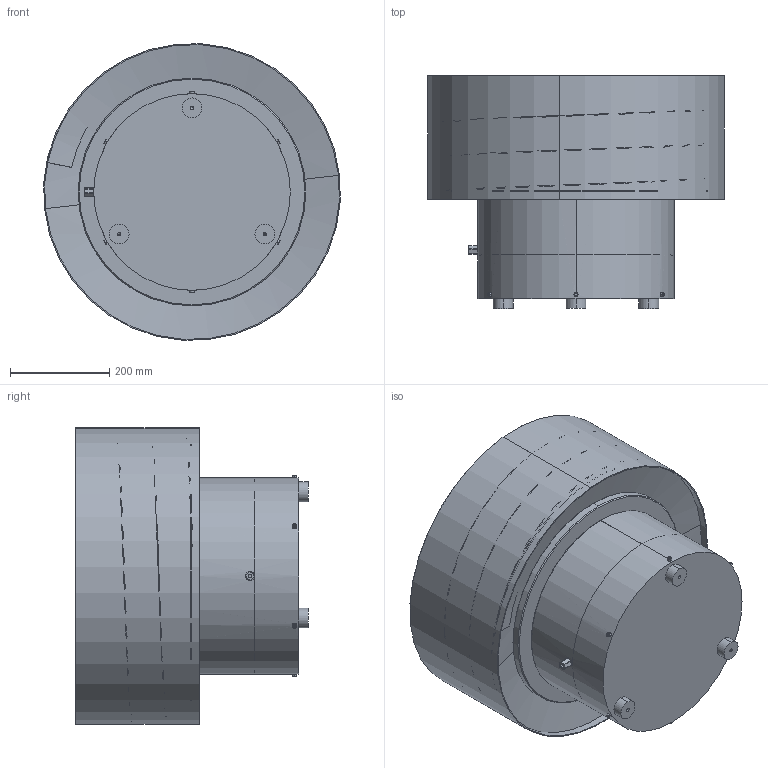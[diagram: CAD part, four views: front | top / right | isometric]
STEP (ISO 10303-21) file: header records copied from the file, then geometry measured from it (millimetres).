
FILE_DESCRIPTION (( 'STEP AP214' ), '1' );
FILE_NAME ('PW600_Q600x250_LEWY_WIBRAMET.STEP', '2020-10-27T09:56:13', ( '' ), ( '' ), 'SwSTEP 2.0', 'SolidWorks 2017', '' );
FILE_SCHEMA (( 'AUTOMOTIVE_DESIGN' ));
Length unit declared in the file: millimetre
Products named in the file (5): socket head cap screw_iso_ISO 4762 M16 x 55 - 55N; PW500-00.22[Podk³adka]; Q600x250L-90-50; PW600_Q600x250_LEWY_WIBRAMET; PW500_WIBRAMET
Assembly tree (4 placements, depth 2):
  PW600_Q600x250_LEWY_WIBRAMET
    PW500_WIBRAMET
    Q600x250L-90-50
    PW500-00.22[Podk³adka]
    socket head cap screw_iso_ISO 4762 M16 x 55 - 55N
Bounding box: 598.86 x 470.31 x 598.86 mm (x, y, z)
Volume: 16452980.6 mm3; surface area: 3046306.8 mm2
Topology: 5 solids, 5 shells, 234 faces, 537 edges, 330 vertices
Faces by surface type: plane 101, cylinder 67, cone 26, bspline 18, torus 16, sphere 6
Entity records: 10231 total; most frequent: CARTESIAN_POINT 4034, DIRECTION 1111, ORIENTED_EDGE 1050, EDGE_CURVE 525, AXIS2_PLACEMENT_3D 414, VERTEX_POINT 328, VECTOR 283, LINE 283
